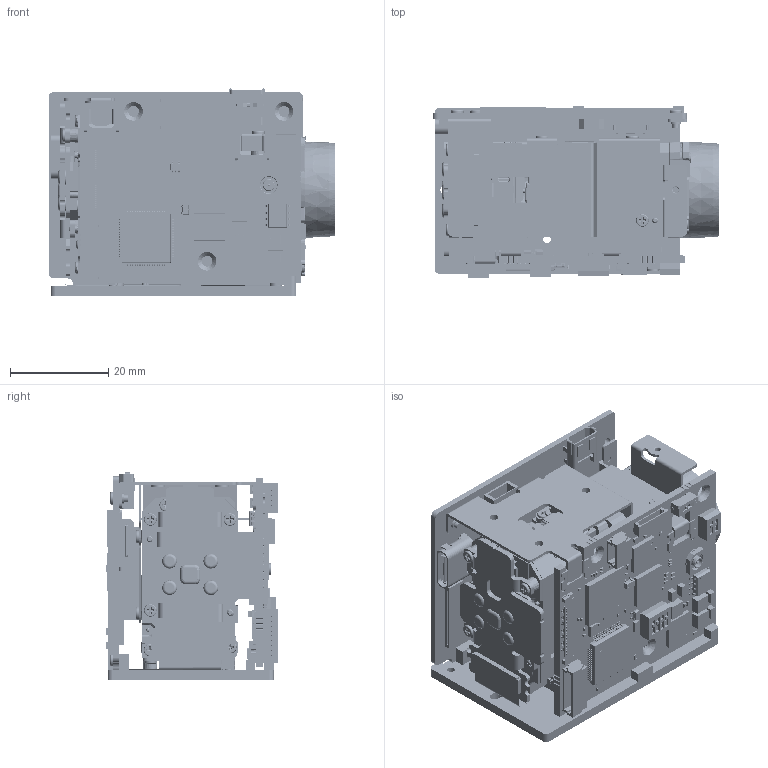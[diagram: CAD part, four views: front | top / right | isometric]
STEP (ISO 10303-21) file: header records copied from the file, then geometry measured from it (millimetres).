
FILE_DESCRIPTION( ( 'Unknown' ), '1' );
FILE_NAME( 'Q:/2003/Product3DCADModels/mm-ap23c01-0128-0101.stp', 'Unknown', ( 'Unknown' ), ( 'Unknown' ), 'PSStep 17.0.49', 'Unknown', ' ' );
FILE_SCHEMA( ( 'AUTOMOTIVE_DESIGN { 1 0 10303 214 1 1 1 1 }' ) );
Length unit declared in the file: millimetre
Products named in the file (527): 10Q3600AZ_BIG-QA1N1; CVXAG504101MG; D0GAR00ZA031; F1G1A1040006; F1G1C1030008; 1AV4J11ZD410G; MISHINMEN_0_2_3; CK0J106M1WMNG; F1G0J2240003; F1G1H1020008; ASM0001; D0GA103JA042; QIMX335LQN-CM; 1AV4V14B0320G; CK_____K1BBNG; F1G0J225A034; CK_____KMABNG; D4CCY104A004; 1KG2MGA0014--; _____3-90516; _____11; _____2-224495; A_CA1_QA1N1; IMX355; BOND; _____6; _____8; _____3-218350; _____7; _____2-339379; CG001BS120-XC02-ALLASSY210908; _X2_FF8EFF9EFF83FF9EFF68-274167; _X2_FF8EFF9EFF83FF9EFF68-274017; _X2_FF8EFF9EFF83FF9EFF68-274307; _X2_FF8EFF9EFF83FF9EFF68-273865; A_CMOSBONDING_QA1N1; SHMPN144R0SA-; PORON-A; PORON-B; Body-2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
Assembly tree (1440 placements, depth 10):
  Assem1
    bracket-0369-0101
      bracket-0369-0101
      rubber-pad-0370-0101  x2
    mm-ap23c01-0084-0101
      Board
      clip-01  x2
      SW2
      R113
        1531119256
          Extruded
      R112
        1531119256
          Extruded
      R111
        1531119392
          Extruded
      SP2
        SLP2510P8
        SLP2510P8
        SLP2510P8
        SLP2510P8
        SLP2510P8
        SLP2510P8
      R99
        1531119392
          Extruded
      R98
        1531119256
          Extruded
      Z14
        1531120752
          Extruded
      R13
        1531119256
          Extruded
      U15
        2043340864
          Thermal_Shape
          Open_CASCADE_STEP_translator_6.8_9.1
          Body
            Open_CASCADE_STEP_translator_6.8_9.2.1
          Pin_Shape  x40
            Open_CASCADE_STEP_translator_6.8_9.4.1
      U14
        sc70-3
      R88
        1531119392
          Extruded
      R87
        1531119256
          Extruded
      R86
        1531119392
          Extruded
      R85
        1531119392
          Extruded
      R84
        1531119256
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Bounding box: 58.37 x 34.86 x 42.16 mm (x, y, z)
Volume: 12837.4 mm3; surface area: 69774.7 mm2
Topology: 1128 solids, 13842 shells, 24840 faces, 101554 edges, 90820 vertices
Faces by surface type: plane 14805, cylinder 6034, cone 1219, bspline 1209, torus 833, sphere 689, revolution 44, extrusion 7
Full cylindrical faces by diameter (mm): 0.023 x28, 0.164 x2, 0.2 x1, 0.25 x88, 0.432 x1, 0.5 x2, 0.512 x1, 0.6 x6, 0.75 x2, 0.8 x5, 0.9 x2, 0.92 x2, 1.075 x1, 1.1 x4, 1.15 x3, 1.2 x3, 1.25 x2, 1.4 x6, 1.5 x8, 1.567 x4, 1.6 x3, 1.75 x3, 1.8 x5, 2 x2, 2.1 x3, 2.2 x4, 2.4 x2, 2.55 x12, 2.8 x3, 3 x11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
Entity records: 1247862 total; most frequent: CARTESIAN_POINT 474720, ORIENTED_EDGE 100396, DIRECTION 96734, EDGE_CURVE 85662, VERTEX_POINT 80686, VECTOR 43737, LINE 43730, B_SPLINE_CURVE_WITH_KNOTS 34442
